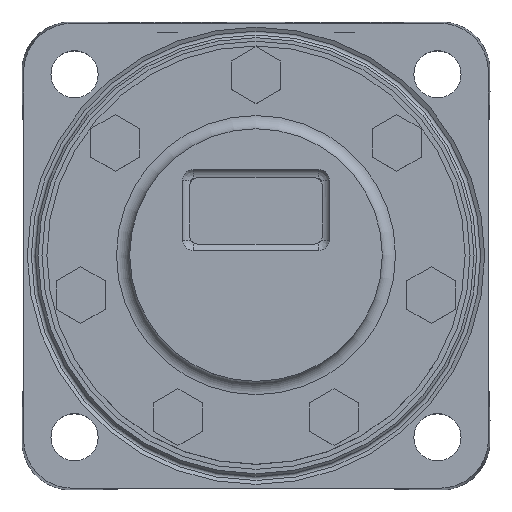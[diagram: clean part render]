
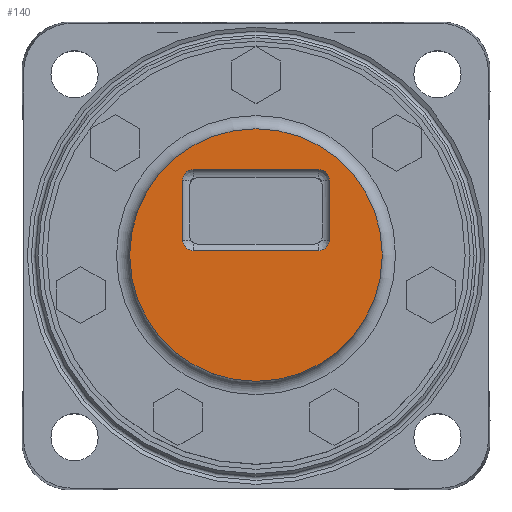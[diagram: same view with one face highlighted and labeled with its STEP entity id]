
A CAD part, top view. The second image highlights one B-rep face of the part: STEP entity #140.
In plain terms, the highlighted planar face has unit normal (0, 0, 1).
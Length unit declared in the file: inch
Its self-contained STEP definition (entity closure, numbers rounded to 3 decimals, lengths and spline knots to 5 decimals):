
#140 = ADVANCED_FACE( '', ( #533, #534 ), #535, .T. );
#533 = FACE_OUTER_BOUND( '', #1532, .T. );
#534 = FACE_BOUND( '', #1533, .T. );
#535 = PLANE( '', #1534 );
#1532 = EDGE_LOOP( '', ( #3305 ) );
#1533 = EDGE_LOOP( '', ( #3306, #3307, #3308, #3309, #3310, #3311, #3312, #3313 ) );
#1534 = AXIS2_PLACEMENT_3D( '', #3314, #3315, #3316 );
#3305 = ORIENTED_EDGE( '', *, *, #5512, .F. );
#3306 = ORIENTED_EDGE( '', *, *, #5513, .F. );
#3307 = ORIENTED_EDGE( '', *, *, #5514, .T. );
#3308 = ORIENTED_EDGE( '', *, *, #5507, .F. );
#3309 = ORIENTED_EDGE( '', *, *, #5515, .T. );
#3310 = ORIENTED_EDGE( '', *, *, #5516, .F. );
#3311 = ORIENTED_EDGE( '', *, *, #5517, .T. );
#3312 = ORIENTED_EDGE( '', *, *, #5518, .F. );
#3313 = ORIENTED_EDGE( '', *, *, #5363, .T. );
#3314 = CARTESIAN_POINT( '', ( 0., 0., 5.851 ) );
#3315 = DIRECTION( '', ( 0., 0., 1. ) );
#3316 = DIRECTION( '', ( 1., 0., 0. ) );
#5363 = EDGE_CURVE( '', #6205, #6203, #6206, .T. );
#5507 = EDGE_CURVE( '', #6476, #6478, #6479, .T. );
#5512 = EDGE_CURVE( '', #6486, #6486, #6487, .T. );
#5513 = EDGE_CURVE( '', #6488, #6203, #6489, .T. );
#5514 = EDGE_CURVE( '', #6488, #6478, #6490, .T. );
#5515 = EDGE_CURVE( '', #6476, #6491, #6492, .T. );
#5516 = EDGE_CURVE( '', #6493, #6491, #6494, .T. );
#5517 = EDGE_CURVE( '', #6493, #6495, #6496, .T. );
#5518 = EDGE_CURVE( '', #6205, #6495, #6497, .T. );
#6203 = VERTEX_POINT( '', #7818 );
#6205 = VERTEX_POINT( '', #7820 );
#6206 = LINE( '', #7821, #7822 );
#6476 = VERTEX_POINT( '', #8751 );
#6478 = VERTEX_POINT( '', #8753 );
#6479 = CIRCLE( '', #8754, 0.11949 );
#6486 = VERTEX_POINT( '', #8785 );
#6487 = CIRCLE( '', #8786, 1.43 );
#6488 = VERTEX_POINT( '', #8787 );
#6489 = CIRCLE( '', #8788, 0.11949 );
#6490 = LINE( '', #8789, #8790 );
#6491 = VERTEX_POINT( '', #8791 );
#6492 = LINE( '', #8792, #8793 );
#6493 = VERTEX_POINT( '', #8794 );
#6494 = CIRCLE( '', #8795, 0.11949 );
#6495 = VERTEX_POINT( '', #8796 );
#6496 = LINE( '', #8797, #8798 );
#6497 = CIRCLE( '', #8799, 0.11949 );
#7818 = CARTESIAN_POINT( '', ( 0.71, 0.96949, 5.851 ) );
#7820 = CARTESIAN_POINT( '', ( -0.71, 0.96949, 5.851 ) );
#7821 = CARTESIAN_POINT( '', ( -0.71, 0.96949, 5.851 ) );
#7822 = VECTOR( '', #11343, 39.37008 );
#8751 = CARTESIAN_POINT( '', ( 0.71, 0.05051, 5.851 ) );
#8753 = CARTESIAN_POINT( '', ( 0.82949, 0.17, 5.851 ) );
#8754 = AXIS2_PLACEMENT_3D( '', #11504, #11505, #11506 );
#8785 = CARTESIAN_POINT( '', ( 0., 1.43, 5.851 ) );
#8786 = AXIS2_PLACEMENT_3D( '', #11510, #11511, #11512 );
#8787 = CARTESIAN_POINT( '', ( 0.82949, 0.85, 5.851 ) );
#8788 = AXIS2_PLACEMENT_3D( '', #11513, #11514, #11515 );
#8789 = CARTESIAN_POINT( '', ( 0.82949, 0.85, 5.851 ) );
#8790 = VECTOR( '', #11516, 39.37008 );
#8791 = CARTESIAN_POINT( '', ( -0.71, 0.05051, 5.851 ) );
#8792 = CARTESIAN_POINT( '', ( 0.71, 0.05051, 5.851 ) );
#8793 = VECTOR( '', #11517, 39.37008 );
#8794 = CARTESIAN_POINT( '', ( -0.82949, 0.17, 5.851 ) );
#8795 = AXIS2_PLACEMENT_3D( '', #11518, #11519, #11520 );
#8796 = CARTESIAN_POINT( '', ( -0.82949, 0.85, 5.851 ) );
#8797 = CARTESIAN_POINT( '', ( -0.82949, 0.17, 5.851 ) );
#8798 = VECTOR( '', #11521, 39.37008 );
#8799 = AXIS2_PLACEMENT_3D( '', #11522, #11523, #11524 );
#11343 = DIRECTION( '', ( 1., 0., 0. ) );
#11504 = CARTESIAN_POINT( '', ( 0.71, 0.17, 5.851 ) );
#11505 = DIRECTION( '', ( 0., 0., 1. ) );
#11506 = DIRECTION( '', ( 0., -1., 0. ) );
#11510 = CARTESIAN_POINT( '', ( 0., 0., 5.851 ) );
#11511 = DIRECTION( '', ( 0., 0., -1. ) );
#11512 = DIRECTION( '', ( 0., 1., 0. ) );
#11513 = CARTESIAN_POINT( '', ( 0.71, 0.85, 5.851 ) );
#11514 = DIRECTION( '', ( 0., 0., 1. ) );
#11515 = DIRECTION( '', ( 1., 0., 0. ) );
#11516 = DIRECTION( '', ( 0., -1., 0. ) );
#11517 = DIRECTION( '', ( -1., 0., 0. ) );
#11518 = CARTESIAN_POINT( '', ( -0.71, 0.17, 5.851 ) );
#11519 = DIRECTION( '', ( 0., 0., 1. ) );
#11520 = DIRECTION( '', ( -1., 0., 0. ) );
#11521 = DIRECTION( '', ( 0., 1., 0. ) );
#11522 = CARTESIAN_POINT( '', ( -0.71, 0.85, 5.851 ) );
#11523 = DIRECTION( '', ( 0., 0., 1. ) );
#11524 = DIRECTION( '', ( 0., 1., 0. ) );
